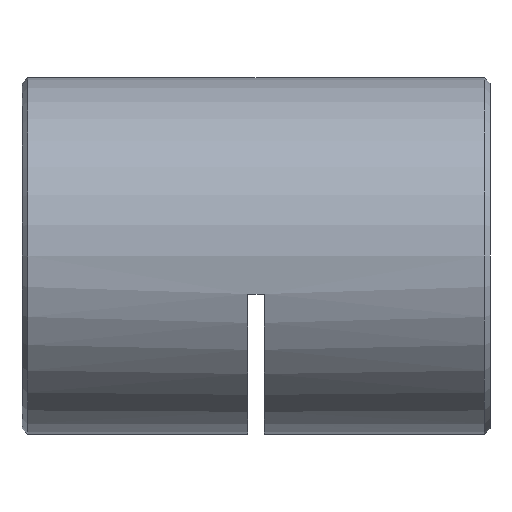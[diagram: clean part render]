
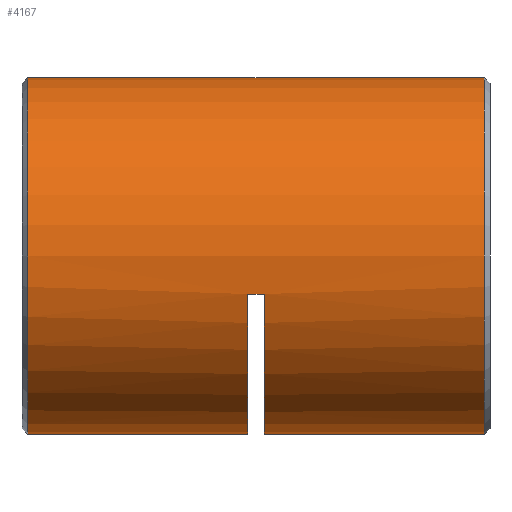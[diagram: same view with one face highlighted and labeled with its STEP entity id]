
A CAD part, left-side view. The second image highlights one B-rep face of the part: STEP entity #4167.
In plain terms, the highlighted cylindrical face has radius 16 mm (diameter 32 mm), a partial arc.
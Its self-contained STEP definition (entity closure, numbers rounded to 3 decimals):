
#148 = DIRECTION ( 'NONE',  ( 0., 0., -1. ) ) ;
#203 = CARTESIAN_POINT ( 'NONE',  ( 0., 42.5, 16. ) ) ;
#244 = VERTEX_POINT ( 'NONE', #5207 ) ;
#330 = DIRECTION ( 'NONE',  ( 0., -1., 0. ) ) ;
#374 = CARTESIAN_POINT ( 'NONE',  ( 0., 42.5, 0. ) ) ;
#392 = VERTEX_POINT ( 'NONE', #5938 ) ;
#428 = EDGE_CURVE ( 'NONE', #1802, #392, #1500, .T. ) ;
#464 = LINE ( 'NONE', #3431, #1811 ) ;
#495 = ORIENTED_EDGE ( 'NONE', *, *, #4489, .F. ) ;
#503 = DIRECTION ( 'NONE',  ( 0., 0., 1. ) ) ;
#563 = LINE ( 'NONE', #1902, #863 ) ;
#706 = EDGE_CURVE ( 'NONE', #4873, #2991, #3199, .T. ) ;
#863 = VECTOR ( 'NONE', #5749, 1000. ) ;
#1075 = AXIS2_PLACEMENT_3D ( 'NONE', #5975, #3109, #148 ) ;
#1223 = CARTESIAN_POINT ( 'NONE',  ( -15.632, 20.5, -3.413 ) ) ;
#1298 = CARTESIAN_POINT ( 'NONE',  ( 0., 41.75, -16. ) ) ;
#1500 = CIRCLE ( 'NONE', #1075, 16. ) ;
#1650 = VERTEX_POINT ( 'NONE', #3114 ) ;
#1736 = CARTESIAN_POINT ( 'NONE',  ( 0., 42.5, -16. ) ) ;
#1802 = VERTEX_POINT ( 'NONE', #1223 ) ;
#1811 = VECTOR ( 'NONE', #4939, 1000. ) ;
#1816 = DIRECTION ( 'NONE',  ( 0., -1., 0. ) ) ;
#1902 = CARTESIAN_POINT ( 'NONE',  ( 0., 42.5, -16. ) ) ;
#1968 = CYLINDRICAL_SURFACE ( 'NONE', #2341, 16. ) ;
#2047 = VECTOR ( 'NONE', #4504, 1000. ) ;
#2140 = EDGE_CURVE ( 'NONE', #1650, #1802, #464, .T. ) ;
#2215 = DIRECTION ( 'NONE',  ( 0., -1., 0. ) ) ;
#2317 = CARTESIAN_POINT ( 'NONE',  ( 0., 22., 0. ) ) ;
#2341 = AXIS2_PLACEMENT_3D ( 'NONE', #374, #330, #3651 ) ;
#2431 = CARTESIAN_POINT ( 'NONE',  ( 0., 41.75, 16. ) ) ;
#2501 = CIRCLE ( 'NONE', #4836, 16. ) ;
#2503 = EDGE_CURVE ( 'NONE', #1650, #244, #3864, .T. ) ;
#2775 = ORIENTED_EDGE ( 'NONE', *, *, #706, .T. ) ;
#2991 = VERTEX_POINT ( 'NONE', #4022 ) ;
#3044 = EDGE_CURVE ( 'NONE', #3250, #244, #5275, .T. ) ;
#3064 = ORIENTED_EDGE ( 'NONE', *, *, #3803, .T. ) ;
#3109 = DIRECTION ( 'NONE',  ( 0., -1., 0. ) ) ;
#3114 = CARTESIAN_POINT ( 'NONE',  ( -15.632, 22., -3.413 ) ) ;
#3199 = CIRCLE ( 'NONE', #4807, 16. ) ;
#3240 = DIRECTION ( 'NONE',  ( 0., 0., -1. ) ) ;
#3250 = VERTEX_POINT ( 'NONE', #1298 ) ;
#3431 = CARTESIAN_POINT ( 'NONE',  ( -15.632, 21.25, -3.413 ) ) ;
#3453 = FACE_OUTER_BOUND ( 'NONE', #5190, .T. ) ;
#3651 = DIRECTION ( 'NONE',  ( 0., 0., -1. ) ) ;
#3794 = VERTEX_POINT ( 'NONE', #2431 ) ;
#3803 = EDGE_CURVE ( 'NONE', #392, #4873, #563, .T. ) ;
#3864 = CIRCLE ( 'NONE', #4491, 16. ) ;
#3873 = EDGE_CURVE ( 'NONE', #3794, #3250, #2501, .T. ) ;
#3930 = ORIENTED_EDGE ( 'NONE', *, *, #2503, .F. ) ;
#4022 = CARTESIAN_POINT ( 'NONE',  ( 0., 0.75, 16. ) ) ;
#4167 = ADVANCED_FACE ( 'NONE', ( #3453 ), #1968, .T. ) ;
#4214 = ORIENTED_EDGE ( 'NONE', *, *, #2140, .T. ) ;
#4264 = CARTESIAN_POINT ( 'NONE',  ( 0., 0.75, 0. ) ) ;
#4489 = EDGE_CURVE ( 'NONE', #3794, #2991, #5881, .T. ) ;
#4491 = AXIS2_PLACEMENT_3D ( 'NONE', #2317, #5687, #6191 ) ;
#4504 = DIRECTION ( 'NONE',  ( 0., -1., 0. ) ) ;
#4807 = AXIS2_PLACEMENT_3D ( 'NONE', #4264, #5734, #503 ) ;
#4836 = AXIS2_PLACEMENT_3D ( 'NONE', #5164, #1816, #3240 ) ;
#4873 = VERTEX_POINT ( 'NONE', #5670 ) ;
#4939 = DIRECTION ( 'NONE',  ( 0., -1., 0. ) ) ;
#5015 = ORIENTED_EDGE ( 'NONE', *, *, #428, .T. ) ;
#5164 = CARTESIAN_POINT ( 'NONE',  ( 0., 41.75, 0. ) ) ;
#5190 = EDGE_LOOP ( 'NONE', ( #495, #6048, #5530, #3930, #4214, #5015, #3064, #2775 ) ) ;
#5207 = CARTESIAN_POINT ( 'NONE',  ( 0., 22., -16. ) ) ;
#5275 = LINE ( 'NONE', #1736, #6102 ) ;
#5530 = ORIENTED_EDGE ( 'NONE', *, *, #3044, .T. ) ;
#5670 = CARTESIAN_POINT ( 'NONE',  ( 0., 0.75, -16. ) ) ;
#5687 = DIRECTION ( 'NONE',  ( 0., -1., 0. ) ) ;
#5734 = DIRECTION ( 'NONE',  ( 0., 1., 0. ) ) ;
#5749 = DIRECTION ( 'NONE',  ( 0., -1., 0. ) ) ;
#5881 = LINE ( 'NONE', #203, #2047 ) ;
#5938 = CARTESIAN_POINT ( 'NONE',  ( 0., 20.5, -16. ) ) ;
#5975 = CARTESIAN_POINT ( 'NONE',  ( 0., 20.5, 0. ) ) ;
#6048 = ORIENTED_EDGE ( 'NONE', *, *, #3873, .T. ) ;
#6102 = VECTOR ( 'NONE', #2215, 1000. ) ;
#6191 = DIRECTION ( 'NONE',  ( 0., 0., -1. ) ) ;
